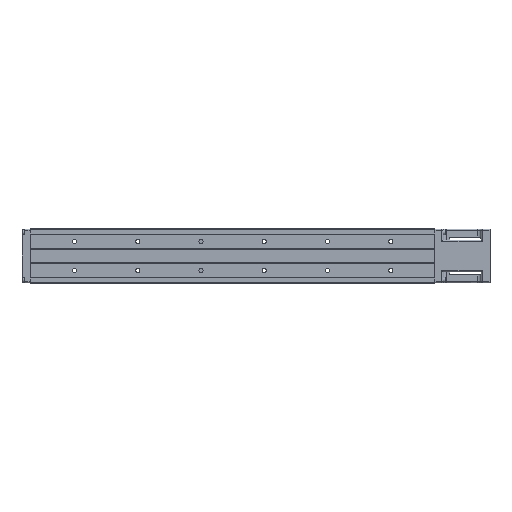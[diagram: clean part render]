
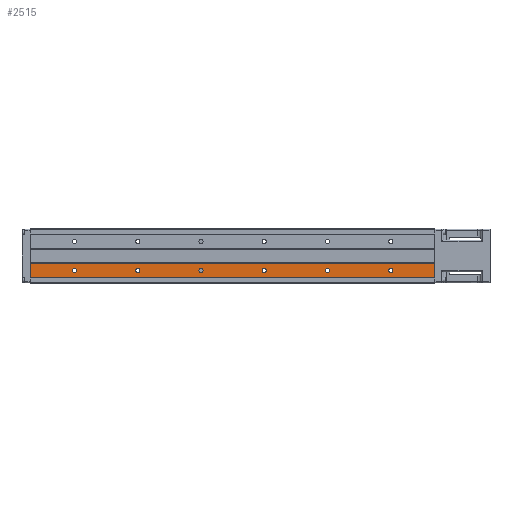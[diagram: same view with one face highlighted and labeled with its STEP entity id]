
A CAD part, front view. The second image highlights one B-rep face of the part: STEP entity #2515.
In plain terms, the highlighted planar face has unit normal (0, -1, 0).
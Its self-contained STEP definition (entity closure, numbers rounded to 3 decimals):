
#57 = ORIENTED_EDGE ( 'NONE', *, *, #17662, .F. ) ;
#334 = ORIENTED_EDGE ( 'NONE', *, *, #19329, .T. ) ;
#757 = VERTEX_POINT ( 'NONE', #18361 ) ;
#837 = DIRECTION ( 'NONE',  ( 0., 0., -1. ) ) ;
#896 = EDGE_CURVE ( 'NONE', #12676, #11765, #13184, .T. ) ;
#918 = DIRECTION ( 'NONE',  ( 0., 0., -1. ) ) ;
#1001 = EDGE_LOOP ( 'NONE', ( #17575, #8538 ) ) ;
#1027 = DIRECTION ( 'NONE',  ( 0., 1., 0. ) ) ;
#1060 = CARTESIAN_POINT ( 'NONE',  ( -150., -32., -23. ) ) ;
#1062 = DIRECTION ( 'NONE',  ( -1., 0., 0. ) ) ;
#1126 = FACE_BOUND ( 'NONE', #10632, .T. ) ;
#1259 = VERTEX_POINT ( 'NONE', #13386 ) ;
#1482 = VERTEX_POINT ( 'NONE', #2092 ) ;
#1626 = CARTESIAN_POINT ( 'NONE',  ( -250., -32., -23. ) ) ;
#1751 = ORIENTED_EDGE ( 'NONE', *, *, #3080, .T. ) ;
#1917 = EDGE_CURVE ( 'NONE', #757, #11584, #14286, .T. ) ;
#1931 = DIRECTION ( 'NONE',  ( 0., 0., 1. ) ) ;
#2092 = CARTESIAN_POINT ( 'NONE',  ( -320., -32., -11.5 ) ) ;
#2105 = DIRECTION ( 'NONE',  ( 0., 0., -1. ) ) ;
#2221 = LINE ( 'NONE', #11746, #9731 ) ;
#2295 = ORIENTED_EDGE ( 'NONE', *, *, #896, .T. ) ;
#2321 = AXIS2_PLACEMENT_3D ( 'NONE', #3903, #5347, #837 ) ;
#2429 = VECTOR ( 'NONE', #4103, 1000. ) ;
#2515 = ADVANCED_FACE ( 'NONE', ( #15659, #3732, #1126, #10529, #4674, #12392, #13333 ), #9799, .T. ) ;
#2614 = VECTOR ( 'NONE', #1931, 1000. ) ;
#2679 = VERTEX_POINT ( 'NONE', #4322 ) ;
#2909 = ORIENTED_EDGE ( 'NONE', *, *, #7061, .T. ) ;
#3051 = AXIS2_PLACEMENT_3D ( 'NONE', #7250, #13396, #8679 ) ;
#3080 = EDGE_CURVE ( 'NONE', #2679, #13572, #18679, .T. ) ;
#3188 = CIRCLE ( 'NONE', #4040, 3.3 ) ;
#3389 = VERTEX_POINT ( 'NONE', #9394 ) ;
#3390 = CARTESIAN_POINT ( 'NONE',  ( 320., -32., -34. ) ) ;
#3471 = ORIENTED_EDGE ( 'NONE', *, *, #10338, .T. ) ;
#3483 = CARTESIAN_POINT ( 'NONE',  ( 50., -32., -23. ) ) ;
#3490 = ORIENTED_EDGE ( 'NONE', *, *, #1917, .T. ) ;
#3510 = VERTEX_POINT ( 'NONE', #9332 ) ;
#3667 = DIRECTION ( 'NONE',  ( 0., 1., 0. ) ) ;
#3732 = FACE_BOUND ( 'NONE', #1001, .T. ) ;
#3818 = EDGE_LOOP ( 'NONE', ( #1751, #334 ) ) ;
#3834 = CARTESIAN_POINT ( 'NONE',  ( -150., -32., -23. ) ) ;
#3903 = CARTESIAN_POINT ( 'NONE',  ( -50., -32., -23. ) ) ;
#4040 = AXIS2_PLACEMENT_3D ( 'NONE', #1060, #19028, #918 ) ;
#4103 = DIRECTION ( 'NONE',  ( 1., 0., 0. ) ) ;
#4322 = CARTESIAN_POINT ( 'NONE',  ( -50., -32., -26.3 ) ) ;
#4347 = EDGE_CURVE ( 'NONE', #3389, #17845, #13363, .T. ) ;
#4348 = EDGE_CURVE ( 'NONE', #17845, #3389, #5883, .T. ) ;
#4498 = DIRECTION ( 'NONE',  ( 1., 0., 0. ) ) ;
#4626 = VERTEX_POINT ( 'NONE', #8454 ) ;
#4674 = FACE_BOUND ( 'NONE', #12446, .T. ) ;
#4869 = VERTEX_POINT ( 'NONE', #9932 ) ;
#5347 = DIRECTION ( 'NONE',  ( 0., 1., 0. ) ) ;
#5883 = CIRCLE ( 'NONE', #10176, 3.3 ) ;
#5887 = ORIENTED_EDGE ( 'NONE', *, *, #16358, .T. ) ;
#5995 = CARTESIAN_POINT ( 'NONE',  ( -250., -32., -23. ) ) ;
#6353 = CARTESIAN_POINT ( 'NONE',  ( 250., -32., -26.3 ) ) ;
#6597 = DIRECTION ( 'NONE',  ( 0., 1., 0. ) ) ;
#6611 = CARTESIAN_POINT ( 'NONE',  ( -320., -32., -34. ) ) ;
#6717 = DIRECTION ( 'NONE',  ( 0., 1., 0. ) ) ;
#6964 = CARTESIAN_POINT ( 'NONE',  ( -50., -32., -23. ) ) ;
#6970 = AXIS2_PLACEMENT_3D ( 'NONE', #16218, #10082, #14850 ) ;
#7027 = EDGE_LOOP ( 'NONE', ( #3471, #2909, #18141, #57 ) ) ;
#7061 = EDGE_CURVE ( 'NONE', #14381, #3510, #2221, .T. ) ;
#7141 = CIRCLE ( 'NONE', #6970, 3.3 ) ;
#7250 = CARTESIAN_POINT ( 'NONE',  ( 50., -32., -23. ) ) ;
#7395 = ORIENTED_EDGE ( 'NONE', *, *, #7594, .T. ) ;
#7594 = EDGE_CURVE ( 'NONE', #10019, #4626, #7141, .T. ) ;
#7805 = DIRECTION ( 'NONE',  ( 0., 1., 0. ) ) ;
#8454 = CARTESIAN_POINT ( 'NONE',  ( 150., -32., -26.3 ) ) ;
#8487 = EDGE_CURVE ( 'NONE', #4869, #1259, #14361, .T. ) ;
#8538 = ORIENTED_EDGE ( 'NONE', *, *, #4347, .T. ) ;
#8557 = EDGE_CURVE ( 'NONE', #11765, #12676, #10838, .T. ) ;
#8679 = DIRECTION ( 'NONE',  ( 0., 0., -1. ) ) ;
#8924 = CARTESIAN_POINT ( 'NONE',  ( 250., -32., -19.7 ) ) ;
#9021 = AXIS2_PLACEMENT_3D ( 'NONE', #12881, #15947, #1062 ) ;
#9230 = CARTESIAN_POINT ( 'NONE',  ( -250., -32., -26.3 ) ) ;
#9332 = CARTESIAN_POINT ( 'NONE',  ( 320., -32., -34. ) ) ;
#9394 = CARTESIAN_POINT ( 'NONE',  ( -250., -32., -19.7 ) ) ;
#9731 = VECTOR ( 'NONE', #4498, 1000. ) ;
#9799 = PLANE ( 'NONE',  #9021 ) ;
#9932 = CARTESIAN_POINT ( 'NONE',  ( 50., -32., -26.3 ) ) ;
#10019 = VERTEX_POINT ( 'NONE', #12219 ) ;
#10067 = DIRECTION ( 'NONE',  ( 0., 0., -1. ) ) ;
#10082 = DIRECTION ( 'NONE',  ( 0., 1., 0. ) ) ;
#10120 = AXIS2_PLACEMENT_3D ( 'NONE', #11472, #13170, #19063 ) ;
#10126 = LINE ( 'NONE', #3390, #2614 ) ;
#10176 = AXIS2_PLACEMENT_3D ( 'NONE', #5995, #16434, #10498 ) ;
#10338 = EDGE_CURVE ( 'NONE', #1482, #14381, #16448, .T. ) ;
#10375 = CIRCLE ( 'NONE', #3051, 3.3 ) ;
#10433 = DIRECTION ( 'NONE',  ( 0., 1., 0. ) ) ;
#10498 = DIRECTION ( 'NONE',  ( 0., 0., -1. ) ) ;
#10529 = FACE_BOUND ( 'NONE', #3818, .T. ) ;
#10632 = EDGE_LOOP ( 'NONE', ( #3490, #15628 ) ) ;
#10838 = CIRCLE ( 'NONE', #13491, 3.3 ) ;
#11472 = CARTESIAN_POINT ( 'NONE',  ( 250., -32., -23. ) ) ;
#11531 = DIRECTION ( 'NONE',  ( 0., 0., -1. ) ) ;
#11584 = VERTEX_POINT ( 'NONE', #14728 ) ;
#11667 = ORIENTED_EDGE ( 'NONE', *, *, #8487, .T. ) ;
#11746 = CARTESIAN_POINT ( 'NONE',  ( -420., -32., -34. ) ) ;
#11755 = CARTESIAN_POINT ( 'NONE',  ( -320., -32., -16.8 ) ) ;
#11765 = VERTEX_POINT ( 'NONE', #6353 ) ;
#11856 = AXIS2_PLACEMENT_3D ( 'NONE', #3483, #7805, #16997 ) ;
#12219 = CARTESIAN_POINT ( 'NONE',  ( 150., -32., -19.7 ) ) ;
#12392 = FACE_BOUND ( 'NONE', #17549, .T. ) ;
#12421 = AXIS2_PLACEMENT_3D ( 'NONE', #1626, #10433, #13440 ) ;
#12446 = EDGE_LOOP ( 'NONE', ( #11667, #5887 ) ) ;
#12557 = CARTESIAN_POINT ( 'NONE',  ( 150., -32., -23. ) ) ;
#12676 = VERTEX_POINT ( 'NONE', #8924 ) ;
#12881 = CARTESIAN_POINT ( 'NONE',  ( 320., -32., -33.6 ) ) ;
#13019 = AXIS2_PLACEMENT_3D ( 'NONE', #3834, #6597, #2105 ) ;
#13170 = DIRECTION ( 'NONE',  ( 0., 1., 0. ) ) ;
#13184 = CIRCLE ( 'NONE', #10120, 3.3 ) ;
#13333 = FACE_BOUND ( 'NONE', #18408, .T. ) ;
#13363 = CIRCLE ( 'NONE', #12421, 3.3 ) ;
#13386 = CARTESIAN_POINT ( 'NONE',  ( 50., -32., -19.7 ) ) ;
#13396 = DIRECTION ( 'NONE',  ( 0., 1., 0. ) ) ;
#13440 = DIRECTION ( 'NONE',  ( 0., 0., -1. ) ) ;
#13491 = AXIS2_PLACEMENT_3D ( 'NONE', #15645, #6717, #17064 ) ;
#13572 = VERTEX_POINT ( 'NONE', #18689 ) ;
#13724 = AXIS2_PLACEMENT_3D ( 'NONE', #12557, #3667, #16918 ) ;
#14001 = ORIENTED_EDGE ( 'NONE', *, *, #8557, .T. ) ;
#14286 = CIRCLE ( 'NONE', #13019, 3.3 ) ;
#14361 = CIRCLE ( 'NONE', #11856, 3.3 ) ;
#14381 = VERTEX_POINT ( 'NONE', #6611 ) ;
#14523 = CARTESIAN_POINT ( 'NONE',  ( 320., -32., -11.5 ) ) ;
#14535 = CIRCLE ( 'NONE', #2321, 3.3 ) ;
#14658 = EDGE_CURVE ( 'NONE', #11584, #757, #3188, .T. ) ;
#14728 = CARTESIAN_POINT ( 'NONE',  ( -150., -32., -19.7 ) ) ;
#14850 = DIRECTION ( 'NONE',  ( 0., 0., -1. ) ) ;
#15066 = LINE ( 'NONE', #17737, #2429 ) ;
#15310 = CIRCLE ( 'NONE', #13724, 3.3 ) ;
#15628 = ORIENTED_EDGE ( 'NONE', *, *, #14658, .T. ) ;
#15645 = CARTESIAN_POINT ( 'NONE',  ( 250., -32., -23. ) ) ;
#15659 = FACE_OUTER_BOUND ( 'NONE', #7027, .T. ) ;
#15947 = DIRECTION ( 'NONE',  ( 0., -1., 0. ) ) ;
#16218 = CARTESIAN_POINT ( 'NONE',  ( 150., -32., -23. ) ) ;
#16358 = EDGE_CURVE ( 'NONE', #1259, #4869, #10375, .T. ) ;
#16434 = DIRECTION ( 'NONE',  ( 0., 1., 0. ) ) ;
#16448 = LINE ( 'NONE', #11755, #19247 ) ;
#16634 = ORIENTED_EDGE ( 'NONE', *, *, #16792, .T. ) ;
#16792 = EDGE_CURVE ( 'NONE', #4626, #10019, #15310, .T. ) ;
#16918 = DIRECTION ( 'NONE',  ( 0., 0., -1. ) ) ;
#16997 = DIRECTION ( 'NONE',  ( 0., 0., -1. ) ) ;
#17064 = DIRECTION ( 'NONE',  ( 0., 0., -1. ) ) ;
#17149 = VERTEX_POINT ( 'NONE', #14523 ) ;
#17400 = AXIS2_PLACEMENT_3D ( 'NONE', #6964, #1027, #11531 ) ;
#17549 = EDGE_LOOP ( 'NONE', ( #16634, #7395 ) ) ;
#17575 = ORIENTED_EDGE ( 'NONE', *, *, #4348, .T. ) ;
#17662 = EDGE_CURVE ( 'NONE', #1482, #17149, #15066, .T. ) ;
#17737 = CARTESIAN_POINT ( 'NONE',  ( -420., -32., -11.5 ) ) ;
#17845 = VERTEX_POINT ( 'NONE', #9230 ) ;
#18141 = ORIENTED_EDGE ( 'NONE', *, *, #18546, .T. ) ;
#18361 = CARTESIAN_POINT ( 'NONE',  ( -150., -32., -26.3 ) ) ;
#18408 = EDGE_LOOP ( 'NONE', ( #14001, #2295 ) ) ;
#18546 = EDGE_CURVE ( 'NONE', #3510, #17149, #10126, .T. ) ;
#18679 = CIRCLE ( 'NONE', #17400, 3.3 ) ;
#18689 = CARTESIAN_POINT ( 'NONE',  ( -50., -32., -19.7 ) ) ;
#19028 = DIRECTION ( 'NONE',  ( 0., 1., 0. ) ) ;
#19063 = DIRECTION ( 'NONE',  ( 0., 0., -1. ) ) ;
#19247 = VECTOR ( 'NONE', #10067, 1000. ) ;
#19329 = EDGE_CURVE ( 'NONE', #13572, #2679, #14535, .T. ) ;
